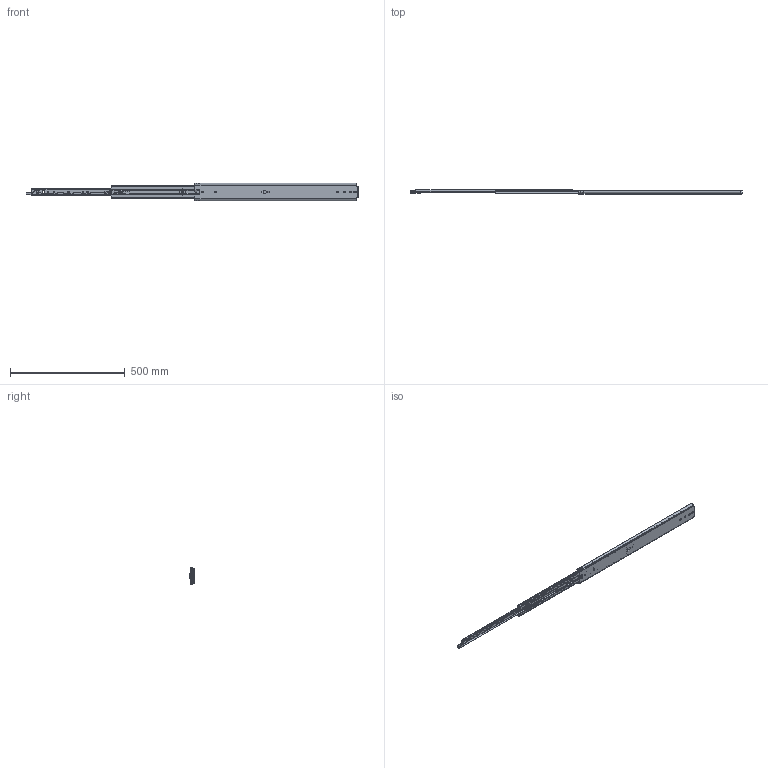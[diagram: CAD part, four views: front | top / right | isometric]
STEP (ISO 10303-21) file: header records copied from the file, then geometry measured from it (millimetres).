
FILE_DESCRIPTION((''),'2;1');
FILE_NAME('DCL2307619-711-OPEN_ASM_ASM','2023-05-10T',('jishu015'),(''),'PRO/ENGINEER BY PARAMETRIC TECHNOLOGY CORPORATION, 2010280','PRO/ENGINEER BY PARAMETRIC TECHNOLOGY CORPORATION, 2010280','');
FILE_SCHEMA(('CONFIG_CONTROL_DESIGN'));
Products named in the file (32): PRT0001; PRT0002; ASM0001_ASM; 1076XIAOZHUTIAO-22516_____2; PRT0003; 1076XIAOZHUTIAO-17516_____ASM_2_ASM; KP-76-04ZHONGGUI1816_____2; PRT0004; PRT0005; PRT0006; PRT0007; PRT0008; 76-XIAOZHUJIA-11____2; PRT0009; ZHUJIA-XIAO____ASM_2_ASM; ASM0002_ASM; PRT0010; PRT0011; DAOGPIAN16_____2; MANIFOLD_SOLID_BREP_53933; MANIFOLD_SOLID_BREP_54374; 1053-3SBANJ01____1_ASM; JIAO-11____1; 76XINSUOKOU____1; PRT0012; PRT0013; PRT0014; PRT0015; PRT0016; ASM0003_ASM; DG-76-3S-28ZUO_ASM_2_ASM; DCL2307619-711-OPEN_ASM_ASM
Assembly tree (67 placements, depth 5):
  DCL2307619-711-OPEN_ASM_ASM
    DG-76-3S-28ZUO_ASM_2_ASM
      ASM0001_ASM
        PRT0001
        PRT0002  x2
      1076XIAOZHUTIAO-17516_____ASM_2_ASM  x2
        1076XIAOZHUTIAO-22516_____2
        PRT0003
      ASM0002_ASM
        KP-76-04ZHONGGUI1816_____2
        PRT0004
        PRT0005
        PRT0006
        PRT0007
        PRT0008
        ZHUJIA-XIAO____ASM_2_ASM
          76-XIAOZHUJIA-11____2
          PRT0009  x24
      ASM0003_ASM
        PRT0010
        PRT0011
        DAOGPIAN16_____2
        1053-3SBANJ01____1_ASM
          MANIFOLD_SOLID_BREP_53933
          MANIFOLD_SOLID_BREP_54374
        JIAO-11____1
        76XINSUOKOU____1
        PRT0012
        PRT0013
        PRT0014
        PRT0015
        PRT0016
Bounding box: 1448.32 x 20.7 x 75.3 mm (x, y, z)
Volume: 466850.1 mm3; surface area: 449421.1 mm2
Topology: 72 solids, 72 shells, 2011 faces, 6307 edges, 4119 vertices
Faces by surface type: plane 968, cylinder 711, sphere 175, bspline 89, cone 28, extrusion 24, torus 16
Entity records: 70475 total; most frequent: CARTESIAN_POINT 22035, ORIENTED_EDGE 10694, DIRECTION 9524, EDGE_CURVE 5347, VERTEX_POINT 3578, AXIS2_PLACEMENT_3D 3348, VECTOR 2828, LINE 2804
